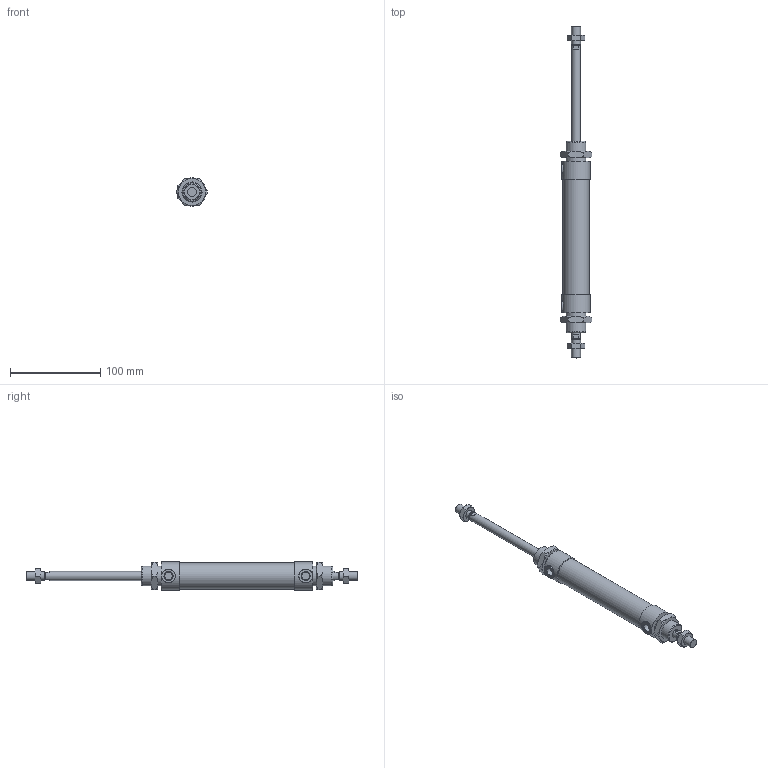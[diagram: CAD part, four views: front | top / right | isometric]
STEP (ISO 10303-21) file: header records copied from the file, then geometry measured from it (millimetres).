
FILE_DESCRIPTION((''),'2;1');
FILE_NAME('L:\Lib-3d\1200\CILINDRI\1232\1232_25_0100.stp','2006-01-05T14:36:18',('medicfa1'),(''),'Autodesk Inventor 10','Autodesk Inventor 10','');
FILE_SCHEMA(('AUTOMOTIVE_DESIGN { 1 0 10303 214 1 1 1 1 }'));
Length unit declared in the file: millimetre
Products named in the file (5): 1232_25_0100; C1232_25_100; S1232_25_100; 1200_25_05; 1200_25_06
Assembly tree (6 placements, depth 2):
  1232_25_0100
    C1232_25_100
    S1232_25_100
    1200_25_05  x2
    1200_25_06  x2
Bounding box: 34.64 x 368 x 31.5 mm (x, y, z)
Volume: 151920.5 mm3; surface area: 44862.2 mm2
Topology: 6 solids, 6 shells, 141 faces, 299 edges, 178 vertices
Faces by surface type: plane 62, cone 54, cylinder 15, bspline 10
Full cylindrical faces by diameter (mm): 8.7 x2, 8.8 x2, 10 x4, 15 x2, 22 x2, 29 x1, 31.5 x2
Entity records: 2620 total; most frequent: CARTESIAN_POINT 721, DIRECTION 390, ORIENTED_EDGE 324, AXIS2_PLACEMENT_3D 177, EDGE_CURVE 162, EDGE_LOOP 136, VERTEX_POINT 110, FACE_OUTER_BOUND 95
